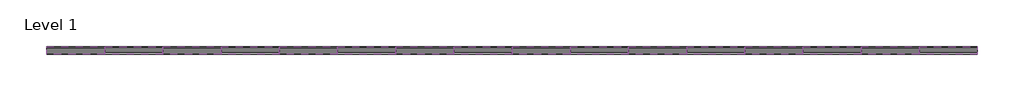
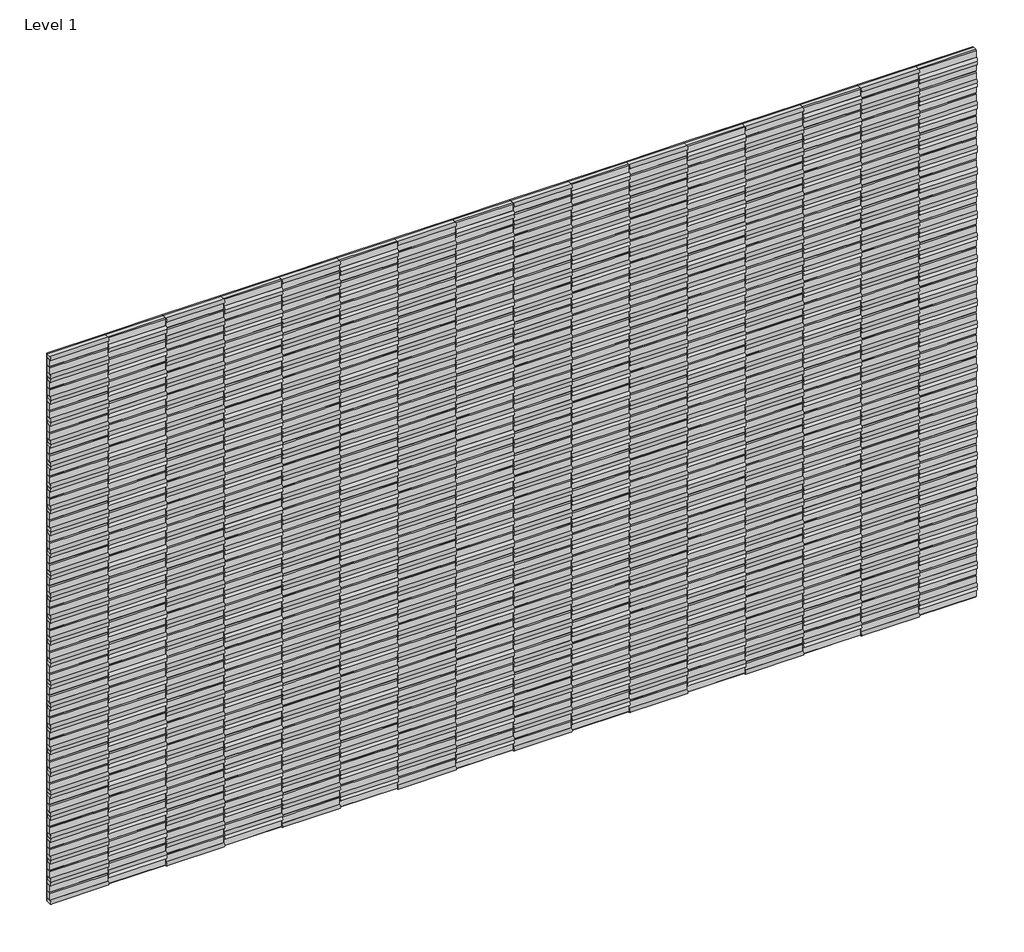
# One storey: 80 proxies.
"""IFC4 building model written with IfcOpenShell, lengths in millimetres."""

from ifc_helpers import new_model, si_unit, origin, place, context, project, spatial, transform, mapped, element, save
from components import tile_a_04621a4c, tile_b_29a99269

model = new_model("IFC4")

# Units and contexts
model_context = context("Model", 3, world=origin())
ifc_project = project(units=[si_unit("LENGTHUNIT", "METRE", prefix="MILLI")], contexts=[model_context])

# Site, building, storey
site = spatial("IfcSite", under=ifc_project)
building = spatial("IfcBuilding", under=site)
storey = spatial("IfcBuildingStorey", under=building, Name="Level 1", Elevation=0.0)

# Proxies
placement = place(None, origin())
tile_a_shape = tile_a_04621a4c(model_context)
element("IfcBuildingElementProxy", 1, Name="Spinneybeck_Søuld Fragments Manufacturing Drawing : Tile A", ObjectType="Spinneybeck_Søuld Fragments Manufacturing Drawing : Tile A", at=placement, inside=storey, context=model_context, shape_type="MappedRepresentation", body=[
    mapped(tile_a_shape, transform((-14894.2408519, -663.006777, 269.875), x_axis=(0.0, 0.0, 1.0), y_axis=(-1.0, 0.0, 0.0), z_axis=(0.0, -1.0, 0.0))),
])
element("IfcBuildingElementProxy", 2, Name="Spinneybeck_Søuld Fragments Manufacturing Drawing : Tile A", ObjectType="Spinneybeck_Søuld Fragments Manufacturing Drawing : Tile A", at=placement, inside=storey, context=model_context, shape_type="MappedRepresentation", body=[
    mapped(tile_a_shape, transform((-14894.2408519, -663.006777, 809.625), x_axis=(0.0, 0.0, 1.0), y_axis=(-1.0, 0.0, 0.0), z_axis=(0.0, -1.0, 0.0))),
])
element("IfcBuildingElementProxy", 3, Name="Spinneybeck_Søuld Fragments Manufacturing Drawing : Tile A", ObjectType="Spinneybeck_Søuld Fragments Manufacturing Drawing : Tile A", at=placement, inside=storey, context=model_context, shape_type="MappedRepresentation", body=[
    mapped(tile_a_shape, transform((-14894.2408519, -663.006777, 1349.375), x_axis=(0.0, 0.0, 1.0), y_axis=(-1.0, 0.0, 0.0), z_axis=(0.0, -1.0, 0.0))),
])
element("IfcBuildingElementProxy", 4, Name="Spinneybeck_Søuld Fragments Manufacturing Drawing : Tile A", ObjectType="Spinneybeck_Søuld Fragments Manufacturing Drawing : Tile A", at=placement, inside=storey, context=model_context, shape_type="MappedRepresentation", body=[
    mapped(tile_a_shape, transform((-14894.2408519, -663.006777, 1889.125), x_axis=(0.0, 0.0, 1.0), y_axis=(-1.0, 0.0, 0.0), z_axis=(0.0, -1.0, 0.0))),
])
element("IfcBuildingElementProxy", 5, Name="Spinneybeck_Søuld Fragments Manufacturing Drawing : Tile A", ObjectType="Spinneybeck_Søuld Fragments Manufacturing Drawing : Tile A", at=placement, inside=storey, context=model_context, shape_type="MappedRepresentation", body=[
    mapped(tile_a_shape, transform((-14894.2408519, -663.006777, 2428.875), x_axis=(0.0, 0.0, 1.0), y_axis=(-1.0, 0.0, 0.0), z_axis=(0.0, -1.0, 0.0))),
])
element("IfcBuildingElementProxy", 6, Name="Spinneybeck_Søuld Fragments Manufacturing Drawing : Tile A", ObjectType="Spinneybeck_Søuld Fragments Manufacturing Drawing : Tile A", at=placement, inside=storey, context=model_context, shape_type="MappedRepresentation", body=[
    mapped(tile_a_shape, transform((-14354.4908519, -663.006777, 269.875), x_axis=(0.0, 0.0, 1.0), y_axis=(-1.0, 0.0, 0.0), z_axis=(0.0, -1.0, 0.0))),
])
element("IfcBuildingElementProxy", 7, Name="Spinneybeck_Søuld Fragments Manufacturing Drawing : Tile A", ObjectType="Spinneybeck_Søuld Fragments Manufacturing Drawing : Tile A", at=placement, inside=storey, context=model_context, shape_type="MappedRepresentation", body=[
    mapped(tile_a_shape, transform((-14354.4908519, -663.006777, 809.625), x_axis=(0.0, 0.0, 1.0), y_axis=(-1.0, 0.0, 0.0), z_axis=(0.0, -1.0, 0.0))),
])
element("IfcBuildingElementProxy", 8, Name="Spinneybeck_Søuld Fragments Manufacturing Drawing : Tile A", ObjectType="Spinneybeck_Søuld Fragments Manufacturing Drawing : Tile A", at=placement, inside=storey, context=model_context, shape_type="MappedRepresentation", body=[
    mapped(tile_a_shape, transform((-14354.4908519, -663.006777, 1349.375), x_axis=(0.0, 0.0, 1.0), y_axis=(-1.0, 0.0, 0.0), z_axis=(0.0, -1.0, 0.0))),
])
element("IfcBuildingElementProxy", 9, Name="Spinneybeck_Søuld Fragments Manufacturing Drawing : Tile A", ObjectType="Spinneybeck_Søuld Fragments Manufacturing Drawing : Tile A", at=placement, inside=storey, context=model_context, shape_type="MappedRepresentation", body=[
    mapped(tile_a_shape, transform((-14354.4908519, -663.006777, 1889.125), x_axis=(0.0, 0.0, 1.0), y_axis=(-1.0, 0.0, 0.0), z_axis=(0.0, -1.0, 0.0))),
])
element("IfcBuildingElementProxy", 10, Name="Spinneybeck_Søuld Fragments Manufacturing Drawing : Tile A", ObjectType="Spinneybeck_Søuld Fragments Manufacturing Drawing : Tile A", at=placement, inside=storey, context=model_context, shape_type="MappedRepresentation", body=[
    mapped(tile_a_shape, transform((-14354.4908519, -663.006777, 2428.875), x_axis=(0.0, 0.0, 1.0), y_axis=(-1.0, 0.0, 0.0), z_axis=(0.0, -1.0, 0.0))),
])
element("IfcBuildingElementProxy", 11, Name="Spinneybeck_Søuld Fragments Manufacturing Drawing : Tile A", ObjectType="Spinneybeck_Søuld Fragments Manufacturing Drawing : Tile A", at=placement, inside=storey, context=model_context, shape_type="MappedRepresentation", body=[
    mapped(tile_a_shape, transform((-13814.7408519, -663.006777, 269.875), x_axis=(0.0, 0.0, 1.0), y_axis=(-1.0, 0.0, 0.0), z_axis=(0.0, -1.0, 0.0))),
])
element("IfcBuildingElementProxy", 12, Name="Spinneybeck_Søuld Fragments Manufacturing Drawing : Tile A", ObjectType="Spinneybeck_Søuld Fragments Manufacturing Drawing : Tile A", at=placement, inside=storey, context=model_context, shape_type="MappedRepresentation", body=[
    mapped(tile_a_shape, transform((-13814.7408519, -663.006777, 809.625), x_axis=(0.0, 0.0, 1.0), y_axis=(-1.0, 0.0, 0.0), z_axis=(0.0, -1.0, 0.0))),
])
element("IfcBuildingElementProxy", 13, Name="Spinneybeck_Søuld Fragments Manufacturing Drawing : Tile A", ObjectType="Spinneybeck_Søuld Fragments Manufacturing Drawing : Tile A", at=placement, inside=storey, context=model_context, shape_type="MappedRepresentation", body=[
    mapped(tile_a_shape, transform((-13814.7408519, -663.006777, 1349.375), x_axis=(0.0, 0.0, 1.0), y_axis=(-1.0, 0.0, 0.0), z_axis=(0.0, -1.0, 0.0))),
])
element("IfcBuildingElementProxy", 14, Name="Spinneybeck_Søuld Fragments Manufacturing Drawing : Tile A", ObjectType="Spinneybeck_Søuld Fragments Manufacturing Drawing : Tile A", at=placement, inside=storey, context=model_context, shape_type="MappedRepresentation", body=[
    mapped(tile_a_shape, transform((-13814.7408519, -663.006777, 1889.125), x_axis=(0.0, 0.0, 1.0), y_axis=(-1.0, 0.0, 0.0), z_axis=(0.0, -1.0, 0.0))),
])
element("IfcBuildingElementProxy", 15, Name="Spinneybeck_Søuld Fragments Manufacturing Drawing : Tile A", ObjectType="Spinneybeck_Søuld Fragments Manufacturing Drawing : Tile A", at=placement, inside=storey, context=model_context, shape_type="MappedRepresentation", body=[
    mapped(tile_a_shape, transform((-13814.7408519, -663.006777, 2428.875), x_axis=(0.0, 0.0, 1.0), y_axis=(-1.0, 0.0, 0.0), z_axis=(0.0, -1.0, 0.0))),
])
element("IfcBuildingElementProxy", 16, Name="Spinneybeck_Søuld Fragments Manufacturing Drawing : Tile A", ObjectType="Spinneybeck_Søuld Fragments Manufacturing Drawing : Tile A", at=placement, inside=storey, context=model_context, shape_type="MappedRepresentation", body=[
    mapped(tile_a_shape, transform((-13274.9908519, -663.006777, 269.875), x_axis=(0.0, 0.0, 1.0), y_axis=(-1.0, 0.0, 0.0), z_axis=(0.0, -1.0, 0.0))),
])
element("IfcBuildingElementProxy", 17, Name="Spinneybeck_Søuld Fragments Manufacturing Drawing : Tile A", ObjectType="Spinneybeck_Søuld Fragments Manufacturing Drawing : Tile A", at=placement, inside=storey, context=model_context, shape_type="MappedRepresentation", body=[
    mapped(tile_a_shape, transform((-13274.9908519, -663.006777, 809.625), x_axis=(0.0, 0.0, 1.0), y_axis=(-1.0, 0.0, 0.0), z_axis=(0.0, -1.0, 0.0))),
])
element("IfcBuildingElementProxy", 18, Name="Spinneybeck_Søuld Fragments Manufacturing Drawing : Tile A", ObjectType="Spinneybeck_Søuld Fragments Manufacturing Drawing : Tile A", at=placement, inside=storey, context=model_context, shape_type="MappedRepresentation", body=[
    mapped(tile_a_shape, transform((-13274.9908519, -663.006777, 1349.375), x_axis=(0.0, 0.0, 1.0), y_axis=(-1.0, 0.0, 0.0), z_axis=(0.0, -1.0, 0.0))),
])
element("IfcBuildingElementProxy", 19, Name="Spinneybeck_Søuld Fragments Manufacturing Drawing : Tile A", ObjectType="Spinneybeck_Søuld Fragments Manufacturing Drawing : Tile A", at=placement, inside=storey, context=model_context, shape_type="MappedRepresentation", body=[
    mapped(tile_a_shape, transform((-13274.9908519, -663.006777, 1889.125), x_axis=(0.0, 0.0, 1.0), y_axis=(-1.0, 0.0, 0.0), z_axis=(0.0, -1.0, 0.0))),
])
element("IfcBuildingElementProxy", 20, Name="Spinneybeck_Søuld Fragments Manufacturing Drawing : Tile A", ObjectType="Spinneybeck_Søuld Fragments Manufacturing Drawing : Tile A", at=placement, inside=storey, context=model_context, shape_type="MappedRepresentation", body=[
    mapped(tile_a_shape, transform((-13274.9908519, -663.006777, 2428.875), x_axis=(0.0, 0.0, 1.0), y_axis=(-1.0, 0.0, 0.0), z_axis=(0.0, -1.0, 0.0))),
])
element("IfcBuildingElementProxy", 21, Name="Spinneybeck_Søuld Fragments Manufacturing Drawing : Tile A", ObjectType="Spinneybeck_Søuld Fragments Manufacturing Drawing : Tile A", at=placement, inside=storey, context=model_context, shape_type="MappedRepresentation", body=[
    mapped(tile_a_shape, transform((-12735.2408519, -663.006777, 269.875), x_axis=(0.0, 0.0, 1.0), y_axis=(-1.0, 0.0, 0.0), z_axis=(0.0, -1.0, 0.0))),
])
element("IfcBuildingElementProxy", 22, Name="Spinneybeck_Søuld Fragments Manufacturing Drawing : Tile A", ObjectType="Spinneybeck_Søuld Fragments Manufacturing Drawing : Tile A", at=placement, inside=storey, context=model_context, shape_type="MappedRepresentation", body=[
    mapped(tile_a_shape, transform((-12735.2408519, -663.006777, 809.625), x_axis=(0.0, 0.0, 1.0), y_axis=(-1.0, 0.0, 0.0), z_axis=(0.0, -1.0, 0.0))),
])
element("IfcBuildingElementProxy", 23, Name="Spinneybeck_Søuld Fragments Manufacturing Drawing : Tile A", ObjectType="Spinneybeck_Søuld Fragments Manufacturing Drawing : Tile A", at=placement, inside=storey, context=model_context, shape_type="MappedRepresentation", body=[
    mapped(tile_a_shape, transform((-12735.2408519, -663.006777, 1349.375), x_axis=(0.0, 0.0, 1.0), y_axis=(-1.0, 0.0, 0.0), z_axis=(0.0, -1.0, 0.0))),
])
element("IfcBuildingElementProxy", 24, Name="Spinneybeck_Søuld Fragments Manufacturing Drawing : Tile A", ObjectType="Spinneybeck_Søuld Fragments Manufacturing Drawing : Tile A", at=placement, inside=storey, context=model_context, shape_type="MappedRepresentation", body=[
    mapped(tile_a_shape, transform((-12735.2408519, -663.006777, 1889.125), x_axis=(0.0, 0.0, 1.0), y_axis=(-1.0, 0.0, 0.0), z_axis=(0.0, -1.0, 0.0))),
])
element("IfcBuildingElementProxy", 25, Name="Spinneybeck_Søuld Fragments Manufacturing Drawing : Tile A", ObjectType="Spinneybeck_Søuld Fragments Manufacturing Drawing : Tile A", at=placement, inside=storey, context=model_context, shape_type="MappedRepresentation", body=[
    mapped(tile_a_shape, transform((-12735.2408519, -663.006777, 2428.875), x_axis=(0.0, 0.0, 1.0), y_axis=(-1.0, 0.0, 0.0), z_axis=(0.0, -1.0, 0.0))),
])
element("IfcBuildingElementProxy", 26, Name="Spinneybeck_Søuld Fragments Manufacturing Drawing : Tile A", ObjectType="Spinneybeck_Søuld Fragments Manufacturing Drawing : Tile A", at=placement, inside=storey, context=model_context, shape_type="MappedRepresentation", body=[
    mapped(tile_a_shape, transform((-12195.4908519, -663.006777, 269.875), x_axis=(0.0, 0.0, 1.0), y_axis=(-1.0, 0.0, 0.0), z_axis=(0.0, -1.0, 0.0))),
])
element("IfcBuildingElementProxy", 27, Name="Spinneybeck_Søuld Fragments Manufacturing Drawing : Tile A", ObjectType="Spinneybeck_Søuld Fragments Manufacturing Drawing : Tile A", at=placement, inside=storey, context=model_context, shape_type="MappedRepresentation", body=[
    mapped(tile_a_shape, transform((-12195.4908519, -663.006777, 809.625), x_axis=(0.0, 0.0, 1.0), y_axis=(-1.0, 0.0, 0.0), z_axis=(0.0, -1.0, 0.0))),
])
element("IfcBuildingElementProxy", 28, Name="Spinneybeck_Søuld Fragments Manufacturing Drawing : Tile A", ObjectType="Spinneybeck_Søuld Fragments Manufacturing Drawing : Tile A", at=placement, inside=storey, context=model_context, shape_type="MappedRepresentation", body=[
    mapped(tile_a_shape, transform((-12195.4908519, -663.006777, 1349.375), x_axis=(0.0, 0.0, 1.0), y_axis=(-1.0, 0.0, 0.0), z_axis=(0.0, -1.0, 0.0))),
])
element("IfcBuildingElementProxy", 29, Name="Spinneybeck_Søuld Fragments Manufacturing Drawing : Tile A", ObjectType="Spinneybeck_Søuld Fragments Manufacturing Drawing : Tile A", at=placement, inside=storey, context=model_context, shape_type="MappedRepresentation", body=[
    mapped(tile_a_shape, transform((-12195.4908519, -663.006777, 1889.125), x_axis=(0.0, 0.0, 1.0), y_axis=(-1.0, 0.0, 0.0), z_axis=(0.0, -1.0, 0.0))),
])
element("IfcBuildingElementProxy", 30, Name="Spinneybeck_Søuld Fragments Manufacturing Drawing : Tile A", ObjectType="Spinneybeck_Søuld Fragments Manufacturing Drawing : Tile A", at=placement, inside=storey, context=model_context, shape_type="MappedRepresentation", body=[
    mapped(tile_a_shape, transform((-12195.4908519, -663.006777, 2428.875), x_axis=(0.0, 0.0, 1.0), y_axis=(-1.0, 0.0, 0.0), z_axis=(0.0, -1.0, 0.0))),
])
element("IfcBuildingElementProxy", 31, Name="Spinneybeck_Søuld Fragments Manufacturing Drawing : Tile A", ObjectType="Spinneybeck_Søuld Fragments Manufacturing Drawing : Tile A", at=placement, inside=storey, context=model_context, shape_type="MappedRepresentation", body=[
    mapped(tile_a_shape, transform((-11655.7408519, -663.006777, 269.875), x_axis=(0.0, 0.0, 1.0), y_axis=(-1.0, 0.0, 0.0), z_axis=(0.0, -1.0, 0.0))),
])
element("IfcBuildingElementProxy", 32, Name="Spinneybeck_Søuld Fragments Manufacturing Drawing : Tile A", ObjectType="Spinneybeck_Søuld Fragments Manufacturing Drawing : Tile A", at=placement, inside=storey, context=model_context, shape_type="MappedRepresentation", body=[
    mapped(tile_a_shape, transform((-11655.7408519, -663.006777, 809.625), x_axis=(0.0, 0.0, 1.0), y_axis=(-1.0, 0.0, 0.0), z_axis=(0.0, -1.0, 0.0))),
])
element("IfcBuildingElementProxy", 33, Name="Spinneybeck_Søuld Fragments Manufacturing Drawing : Tile A", ObjectType="Spinneybeck_Søuld Fragments Manufacturing Drawing : Tile A", at=placement, inside=storey, context=model_context, shape_type="MappedRepresentation", body=[
    mapped(tile_a_shape, transform((-11655.7408519, -663.006777, 1349.375), x_axis=(0.0, 0.0, 1.0), y_axis=(-1.0, 0.0, 0.0), z_axis=(0.0, -1.0, 0.0))),
])
element("IfcBuildingElementProxy", 34, Name="Spinneybeck_Søuld Fragments Manufacturing Drawing : Tile A", ObjectType="Spinneybeck_Søuld Fragments Manufacturing Drawing : Tile A", at=placement, inside=storey, context=model_context, shape_type="MappedRepresentation", body=[
    mapped(tile_a_shape, transform((-11655.7408519, -663.006777, 1889.125), x_axis=(0.0, 0.0, 1.0), y_axis=(-1.0, 0.0, 0.0), z_axis=(0.0, -1.0, 0.0))),
])
element("IfcBuildingElementProxy", 35, Name="Spinneybeck_Søuld Fragments Manufacturing Drawing : Tile A", ObjectType="Spinneybeck_Søuld Fragments Manufacturing Drawing : Tile A", at=placement, inside=storey, context=model_context, shape_type="MappedRepresentation", body=[
    mapped(tile_a_shape, transform((-11655.7408519, -663.006777, 2428.875), x_axis=(0.0, 0.0, 1.0), y_axis=(-1.0, 0.0, 0.0), z_axis=(0.0, -1.0, 0.0))),
])
element("IfcBuildingElementProxy", 36, Name="Spinneybeck_Søuld Fragments Manufacturing Drawing : Tile A", ObjectType="Spinneybeck_Søuld Fragments Manufacturing Drawing : Tile A", at=placement, inside=storey, context=model_context, shape_type="MappedRepresentation", body=[
    mapped(tile_a_shape, transform((-11115.9908519, -663.006777, 269.875), x_axis=(0.0, 0.0, 1.0), y_axis=(-1.0, 0.0, 0.0), z_axis=(0.0, -1.0, 0.0))),
])
element("IfcBuildingElementProxy", 37, Name="Spinneybeck_Søuld Fragments Manufacturing Drawing : Tile A", ObjectType="Spinneybeck_Søuld Fragments Manufacturing Drawing : Tile A", at=placement, inside=storey, context=model_context, shape_type="MappedRepresentation", body=[
    mapped(tile_a_shape, transform((-11115.9908519, -663.006777, 809.625), x_axis=(0.0, 0.0, 1.0), y_axis=(-1.0, 0.0, 0.0), z_axis=(0.0, -1.0, 0.0))),
])
element("IfcBuildingElementProxy", 38, Name="Spinneybeck_Søuld Fragments Manufacturing Drawing : Tile A", ObjectType="Spinneybeck_Søuld Fragments Manufacturing Drawing : Tile A", at=placement, inside=storey, context=model_context, shape_type="MappedRepresentation", body=[
    mapped(tile_a_shape, transform((-11115.9908519, -663.006777, 1349.375), x_axis=(0.0, 0.0, 1.0), y_axis=(-1.0, 0.0, 0.0), z_axis=(0.0, -1.0, 0.0))),
])
element("IfcBuildingElementProxy", 39, Name="Spinneybeck_Søuld Fragments Manufacturing Drawing : Tile A", ObjectType="Spinneybeck_Søuld Fragments Manufacturing Drawing : Tile A", at=placement, inside=storey, context=model_context, shape_type="MappedRepresentation", body=[
    mapped(tile_a_shape, transform((-11115.9908519, -663.006777, 1889.125), x_axis=(0.0, 0.0, 1.0), y_axis=(-1.0, 0.0, 0.0), z_axis=(0.0, -1.0, 0.0))),
])
element("IfcBuildingElementProxy", 40, Name="Spinneybeck_Søuld Fragments Manufacturing Drawing : Tile A", ObjectType="Spinneybeck_Søuld Fragments Manufacturing Drawing : Tile A", at=placement, inside=storey, context=model_context, shape_type="MappedRepresentation", body=[
    mapped(tile_a_shape, transform((-11115.9908519, -663.006777, 2428.875), x_axis=(0.0, 0.0, 1.0), y_axis=(-1.0, 0.0, 0.0), z_axis=(0.0, -1.0, 0.0))),
])
tile_b_shape = tile_b_29a99269(model_context)
element("IfcBuildingElementProxy", 41, Name="Spinneybeck_Søuld Fragments Manufacturing Drawing : Tile B", ObjectType="Spinneybeck_Søuld Fragments Manufacturing Drawing : Tile B", at=placement, inside=storey, context=model_context, shape_type="MappedRepresentation", body=[
    mapped(tile_b_shape, transform((-14624.3658519, -663.006777, 269.875), x_axis=(0.0, 0.0, 1.0), y_axis=(-1.0, 0.0, 0.0), z_axis=(0.0, -1.0, 0.0))),
])
element("IfcBuildingElementProxy", 42, Name="Spinneybeck_Søuld Fragments Manufacturing Drawing : Tile B", ObjectType="Spinneybeck_Søuld Fragments Manufacturing Drawing : Tile B", at=placement, inside=storey, context=model_context, shape_type="MappedRepresentation", body=[
    mapped(tile_b_shape, transform((-14624.3658519, -663.006777, 809.625), x_axis=(0.0, 0.0, 1.0), y_axis=(-1.0, 0.0, 0.0), z_axis=(0.0, -1.0, 0.0))),
])
element("IfcBuildingElementProxy", 43, Name="Spinneybeck_Søuld Fragments Manufacturing Drawing : Tile B", ObjectType="Spinneybeck_Søuld Fragments Manufacturing Drawing : Tile B", at=placement, inside=storey, context=model_context, shape_type="MappedRepresentation", body=[
    mapped(tile_b_shape, transform((-14624.3658519, -663.006777, 1349.375), x_axis=(0.0, 0.0, 1.0), y_axis=(-1.0, 0.0, 0.0), z_axis=(0.0, -1.0, 0.0))),
])
element("IfcBuildingElementProxy", 44, Name="Spinneybeck_Søuld Fragments Manufacturing Drawing : Tile B", ObjectType="Spinneybeck_Søuld Fragments Manufacturing Drawing : Tile B", at=placement, inside=storey, context=model_context, shape_type="MappedRepresentation", body=[
    mapped(tile_b_shape, transform((-14624.3658519, -663.006777, 1889.125), x_axis=(0.0, 0.0, 1.0), y_axis=(-1.0, 0.0, 0.0), z_axis=(0.0, -1.0, 0.0))),
])
element("IfcBuildingElementProxy", 45, Name="Spinneybeck_Søuld Fragments Manufacturing Drawing : Tile B", ObjectType="Spinneybeck_Søuld Fragments Manufacturing Drawing : Tile B", at=placement, inside=storey, context=model_context, shape_type="MappedRepresentation", body=[
    mapped(tile_b_shape, transform((-14624.3658519, -663.006777, 2428.875), x_axis=(0.0, 0.0, 1.0), y_axis=(-1.0, 0.0, 0.0), z_axis=(0.0, -1.0, 0.0))),
])
element("IfcBuildingElementProxy", 46, Name="Spinneybeck_Søuld Fragments Manufacturing Drawing : Tile B", ObjectType="Spinneybeck_Søuld Fragments Manufacturing Drawing : Tile B", at=placement, inside=storey, context=model_context, shape_type="MappedRepresentation", body=[
    mapped(tile_b_shape, transform((-14084.6158519, -663.006777, 269.875), x_axis=(0.0, 0.0, 1.0), y_axis=(-1.0, 0.0, 0.0), z_axis=(0.0, -1.0, 0.0))),
])
element("IfcBuildingElementProxy", 47, Name="Spinneybeck_Søuld Fragments Manufacturing Drawing : Tile B", ObjectType="Spinneybeck_Søuld Fragments Manufacturing Drawing : Tile B", at=placement, inside=storey, context=model_context, shape_type="MappedRepresentation", body=[
    mapped(tile_b_shape, transform((-14084.6158519, -663.006777, 809.625), x_axis=(0.0, 0.0, 1.0), y_axis=(-1.0, 0.0, 0.0), z_axis=(0.0, -1.0, 0.0))),
])
element("IfcBuildingElementProxy", 48, Name="Spinneybeck_Søuld Fragments Manufacturing Drawing : Tile B", ObjectType="Spinneybeck_Søuld Fragments Manufacturing Drawing : Tile B", at=placement, inside=storey, context=model_context, shape_type="MappedRepresentation", body=[
    mapped(tile_b_shape, transform((-14084.6158519, -663.006777, 1349.375), x_axis=(0.0, 0.0, 1.0), y_axis=(-1.0, 0.0, 0.0), z_axis=(0.0, -1.0, 0.0))),
])
element("IfcBuildingElementProxy", 49, Name="Spinneybeck_Søuld Fragments Manufacturing Drawing : Tile B", ObjectType="Spinneybeck_Søuld Fragments Manufacturing Drawing : Tile B", at=placement, inside=storey, context=model_context, shape_type="MappedRepresentation", body=[
    mapped(tile_b_shape, transform((-14084.6158519, -663.006777, 1889.125), x_axis=(0.0, 0.0, 1.0), y_axis=(-1.0, 0.0, 0.0), z_axis=(0.0, -1.0, 0.0))),
])
element("IfcBuildingElementProxy", 50, Name="Spinneybeck_Søuld Fragments Manufacturing Drawing : Tile B", ObjectType="Spinneybeck_Søuld Fragments Manufacturing Drawing : Tile B", at=placement, inside=storey, context=model_context, shape_type="MappedRepresentation", body=[
    mapped(tile_b_shape, transform((-14084.6158519, -663.006777, 2428.875), x_axis=(0.0, 0.0, 1.0), y_axis=(-1.0, 0.0, 0.0), z_axis=(0.0, -1.0, 0.0))),
])
element("IfcBuildingElementProxy", 51, Name="Spinneybeck_Søuld Fragments Manufacturing Drawing : Tile B", ObjectType="Spinneybeck_Søuld Fragments Manufacturing Drawing : Tile B", at=placement, inside=storey, context=model_context, shape_type="MappedRepresentation", body=[
    mapped(tile_b_shape, transform((-13544.8658519, -663.006777, 269.875), x_axis=(0.0, 0.0, 1.0), y_axis=(-1.0, 0.0, 0.0), z_axis=(0.0, -1.0, 0.0))),
])
element("IfcBuildingElementProxy", 52, Name="Spinneybeck_Søuld Fragments Manufacturing Drawing : Tile B", ObjectType="Spinneybeck_Søuld Fragments Manufacturing Drawing : Tile B", at=placement, inside=storey, context=model_context, shape_type="MappedRepresentation", body=[
    mapped(tile_b_shape, transform((-13544.8658519, -663.006777, 809.625), x_axis=(0.0, 0.0, 1.0), y_axis=(-1.0, 0.0, 0.0), z_axis=(0.0, -1.0, 0.0))),
])
element("IfcBuildingElementProxy", 53, Name="Spinneybeck_Søuld Fragments Manufacturing Drawing : Tile B", ObjectType="Spinneybeck_Søuld Fragments Manufacturing Drawing : Tile B", at=placement, inside=storey, context=model_context, shape_type="MappedRepresentation", body=[
    mapped(tile_b_shape, transform((-13544.8658519, -663.006777, 1349.375), x_axis=(0.0, 0.0, 1.0), y_axis=(-1.0, 0.0, 0.0), z_axis=(0.0, -1.0, 0.0))),
])
element("IfcBuildingElementProxy", 54, Name="Spinneybeck_Søuld Fragments Manufacturing Drawing : Tile B", ObjectType="Spinneybeck_Søuld Fragments Manufacturing Drawing : Tile B", at=placement, inside=storey, context=model_context, shape_type="MappedRepresentation", body=[
    mapped(tile_b_shape, transform((-13544.8658519, -663.006777, 1889.125), x_axis=(0.0, 0.0, 1.0), y_axis=(-1.0, 0.0, 0.0), z_axis=(0.0, -1.0, 0.0))),
])
element("IfcBuildingElementProxy", 55, Name="Spinneybeck_Søuld Fragments Manufacturing Drawing : Tile B", ObjectType="Spinneybeck_Søuld Fragments Manufacturing Drawing : Tile B", at=placement, inside=storey, context=model_context, shape_type="MappedRepresentation", body=[
    mapped(tile_b_shape, transform((-13544.8658519, -663.006777, 2428.875), x_axis=(0.0, 0.0, 1.0), y_axis=(-1.0, 0.0, 0.0), z_axis=(0.0, -1.0, 0.0))),
])
element("IfcBuildingElementProxy", 56, Name="Spinneybeck_Søuld Fragments Manufacturing Drawing : Tile B", ObjectType="Spinneybeck_Søuld Fragments Manufacturing Drawing : Tile B", at=placement, inside=storey, context=model_context, shape_type="MappedRepresentation", body=[
    mapped(tile_b_shape, transform((-13005.1158519, -663.006777, 269.875), x_axis=(0.0, 0.0, 1.0), y_axis=(-1.0, 0.0, 0.0), z_axis=(0.0, -1.0, 0.0))),
])
element("IfcBuildingElementProxy", 57, Name="Spinneybeck_Søuld Fragments Manufacturing Drawing : Tile B", ObjectType="Spinneybeck_Søuld Fragments Manufacturing Drawing : Tile B", at=placement, inside=storey, context=model_context, shape_type="MappedRepresentation", body=[
    mapped(tile_b_shape, transform((-13005.1158519, -663.006777, 809.625), x_axis=(0.0, 0.0, 1.0), y_axis=(-1.0, 0.0, 0.0), z_axis=(0.0, -1.0, 0.0))),
])
element("IfcBuildingElementProxy", 58, Name="Spinneybeck_Søuld Fragments Manufacturing Drawing : Tile B", ObjectType="Spinneybeck_Søuld Fragments Manufacturing Drawing : Tile B", at=placement, inside=storey, context=model_context, shape_type="MappedRepresentation", body=[
    mapped(tile_b_shape, transform((-13005.1158519, -663.006777, 1349.375), x_axis=(0.0, 0.0, 1.0), y_axis=(-1.0, 0.0, 0.0), z_axis=(0.0, -1.0, 0.0))),
])
element("IfcBuildingElementProxy", 59, Name="Spinneybeck_Søuld Fragments Manufacturing Drawing : Tile B", ObjectType="Spinneybeck_Søuld Fragments Manufacturing Drawing : Tile B", at=placement, inside=storey, context=model_context, shape_type="MappedRepresentation", body=[
    mapped(tile_b_shape, transform((-13005.1158519, -663.006777, 1889.125), x_axis=(0.0, 0.0, 1.0), y_axis=(-1.0, 0.0, 0.0), z_axis=(0.0, -1.0, 0.0))),
])
element("IfcBuildingElementProxy", 60, Name="Spinneybeck_Søuld Fragments Manufacturing Drawing : Tile B", ObjectType="Spinneybeck_Søuld Fragments Manufacturing Drawing : Tile B", at=placement, inside=storey, context=model_context, shape_type="MappedRepresentation", body=[
    mapped(tile_b_shape, transform((-13005.1158519, -663.006777, 2428.875), x_axis=(0.0, 0.0, 1.0), y_axis=(-1.0, 0.0, 0.0), z_axis=(0.0, -1.0, 0.0))),
])
element("IfcBuildingElementProxy", 61, Name="Spinneybeck_Søuld Fragments Manufacturing Drawing : Tile B", ObjectType="Spinneybeck_Søuld Fragments Manufacturing Drawing : Tile B", at=placement, inside=storey, context=model_context, shape_type="MappedRepresentation", body=[
    mapped(tile_b_shape, transform((-12465.3658519, -663.006777, 269.875), x_axis=(0.0, 0.0, 1.0), y_axis=(-1.0, 0.0, 0.0), z_axis=(0.0, -1.0, 0.0))),
])
element("IfcBuildingElementProxy", 62, Name="Spinneybeck_Søuld Fragments Manufacturing Drawing : Tile B", ObjectType="Spinneybeck_Søuld Fragments Manufacturing Drawing : Tile B", at=placement, inside=storey, context=model_context, shape_type="MappedRepresentation", body=[
    mapped(tile_b_shape, transform((-12465.3658519, -663.006777, 809.625), x_axis=(0.0, 0.0, 1.0), y_axis=(-1.0, 0.0, 0.0), z_axis=(0.0, -1.0, 0.0))),
])
element("IfcBuildingElementProxy", 63, Name="Spinneybeck_Søuld Fragments Manufacturing Drawing : Tile B", ObjectType="Spinneybeck_Søuld Fragments Manufacturing Drawing : Tile B", at=placement, inside=storey, context=model_context, shape_type="MappedRepresentation", body=[
    mapped(tile_b_shape, transform((-12465.3658519, -663.006777, 1349.375), x_axis=(0.0, 0.0, 1.0), y_axis=(-1.0, 0.0, 0.0), z_axis=(0.0, -1.0, 0.0))),
])
element("IfcBuildingElementProxy", 64, Name="Spinneybeck_Søuld Fragments Manufacturing Drawing : Tile B", ObjectType="Spinneybeck_Søuld Fragments Manufacturing Drawing : Tile B", at=placement, inside=storey, context=model_context, shape_type="MappedRepresentation", body=[
    mapped(tile_b_shape, transform((-12465.3658519, -663.006777, 1889.125), x_axis=(0.0, 0.0, 1.0), y_axis=(-1.0, 0.0, 0.0), z_axis=(0.0, -1.0, 0.0))),
])
element("IfcBuildingElementProxy", 65, Name="Spinneybeck_Søuld Fragments Manufacturing Drawing : Tile B", ObjectType="Spinneybeck_Søuld Fragments Manufacturing Drawing : Tile B", at=placement, inside=storey, context=model_context, shape_type="MappedRepresentation", body=[
    mapped(tile_b_shape, transform((-12465.3658519, -663.006777, 2428.875), x_axis=(0.0, 0.0, 1.0), y_axis=(-1.0, 0.0, 0.0), z_axis=(0.0, -1.0, 0.0))),
])
element("IfcBuildingElementProxy", 66, Name="Spinneybeck_Søuld Fragments Manufacturing Drawing : Tile B", ObjectType="Spinneybeck_Søuld Fragments Manufacturing Drawing : Tile B", at=placement, inside=storey, context=model_context, shape_type="MappedRepresentation", body=[
    mapped(tile_b_shape, transform((-11925.6158519, -663.006777, 269.875), x_axis=(0.0, 0.0, 1.0), y_axis=(-1.0, 0.0, 0.0), z_axis=(0.0, -1.0, 0.0))),
])
element("IfcBuildingElementProxy", 67, Name="Spinneybeck_Søuld Fragments Manufacturing Drawing : Tile B", ObjectType="Spinneybeck_Søuld Fragments Manufacturing Drawing : Tile B", at=placement, inside=storey, context=model_context, shape_type="MappedRepresentation", body=[
    mapped(tile_b_shape, transform((-11925.6158519, -663.006777, 809.625), x_axis=(0.0, 0.0, 1.0), y_axis=(-1.0, 0.0, 0.0), z_axis=(0.0, -1.0, 0.0))),
])
element("IfcBuildingElementProxy", 68, Name="Spinneybeck_Søuld Fragments Manufacturing Drawing : Tile B", ObjectType="Spinneybeck_Søuld Fragments Manufacturing Drawing : Tile B", at=placement, inside=storey, context=model_context, shape_type="MappedRepresentation", body=[
    mapped(tile_b_shape, transform((-11925.6158519, -663.006777, 1349.375), x_axis=(0.0, 0.0, 1.0), y_axis=(-1.0, 0.0, 0.0), z_axis=(0.0, -1.0, 0.0))),
])
element("IfcBuildingElementProxy", 69, Name="Spinneybeck_Søuld Fragments Manufacturing Drawing : Tile B", ObjectType="Spinneybeck_Søuld Fragments Manufacturing Drawing : Tile B", at=placement, inside=storey, context=model_context, shape_type="MappedRepresentation", body=[
    mapped(tile_b_shape, transform((-11925.6158519, -663.006777, 1889.125), x_axis=(0.0, 0.0, 1.0), y_axis=(-1.0, 0.0, 0.0), z_axis=(0.0, -1.0, 0.0))),
])
element("IfcBuildingElementProxy", 70, Name="Spinneybeck_Søuld Fragments Manufacturing Drawing : Tile B", ObjectType="Spinneybeck_Søuld Fragments Manufacturing Drawing : Tile B", at=placement, inside=storey, context=model_context, shape_type="MappedRepresentation", body=[
    mapped(tile_b_shape, transform((-11925.6158519, -663.006777, 2428.875), x_axis=(0.0, 0.0, 1.0), y_axis=(-1.0, 0.0, 0.0), z_axis=(0.0, -1.0, 0.0))),
])
element("IfcBuildingElementProxy", 71, Name="Spinneybeck_Søuld Fragments Manufacturing Drawing : Tile B", ObjectType="Spinneybeck_Søuld Fragments Manufacturing Drawing : Tile B", at=placement, inside=storey, context=model_context, shape_type="MappedRepresentation", body=[
    mapped(tile_b_shape, transform((-11385.8658519, -663.006777, 269.875), x_axis=(0.0, 0.0, 1.0), y_axis=(-1.0, 0.0, 0.0), z_axis=(0.0, -1.0, 0.0))),
])
element("IfcBuildingElementProxy", 72, Name="Spinneybeck_Søuld Fragments Manufacturing Drawing : Tile B", ObjectType="Spinneybeck_Søuld Fragments Manufacturing Drawing : Tile B", at=placement, inside=storey, context=model_context, shape_type="MappedRepresentation", body=[
    mapped(tile_b_shape, transform((-11385.8658519, -663.006777, 809.625), x_axis=(0.0, 0.0, 1.0), y_axis=(-1.0, 0.0, 0.0), z_axis=(0.0, -1.0, 0.0))),
])
element("IfcBuildingElementProxy", 73, Name="Spinneybeck_Søuld Fragments Manufacturing Drawing : Tile B", ObjectType="Spinneybeck_Søuld Fragments Manufacturing Drawing : Tile B", at=placement, inside=storey, context=model_context, shape_type="MappedRepresentation", body=[
    mapped(tile_b_shape, transform((-11385.8658519, -663.006777, 1349.375), x_axis=(0.0, 0.0, 1.0), y_axis=(-1.0, 0.0, 0.0), z_axis=(0.0, -1.0, 0.0))),
])
element("IfcBuildingElementProxy", 74, Name="Spinneybeck_Søuld Fragments Manufacturing Drawing : Tile B", ObjectType="Spinneybeck_Søuld Fragments Manufacturing Drawing : Tile B", at=placement, inside=storey, context=model_context, shape_type="MappedRepresentation", body=[
    mapped(tile_b_shape, transform((-11385.8658519, -663.006777, 1889.125), x_axis=(0.0, 0.0, 1.0), y_axis=(-1.0, 0.0, 0.0), z_axis=(0.0, -1.0, 0.0))),
])
element("IfcBuildingElementProxy", 75, Name="Spinneybeck_Søuld Fragments Manufacturing Drawing : Tile B", ObjectType="Spinneybeck_Søuld Fragments Manufacturing Drawing : Tile B", at=placement, inside=storey, context=model_context, shape_type="MappedRepresentation", body=[
    mapped(tile_b_shape, transform((-11385.8658519, -663.006777, 2428.875), x_axis=(0.0, 0.0, 1.0), y_axis=(-1.0, 0.0, 0.0), z_axis=(0.0, -1.0, 0.0))),
])
element("IfcBuildingElementProxy", 76, Name="Spinneybeck_Søuld Fragments Manufacturing Drawing : Tile B", ObjectType="Spinneybeck_Søuld Fragments Manufacturing Drawing : Tile B", at=placement, inside=storey, context=model_context, shape_type="MappedRepresentation", body=[
    mapped(tile_b_shape, transform((-10846.1158519, -663.006777, 269.875), x_axis=(0.0, 0.0, 1.0), y_axis=(-1.0, 0.0, 0.0), z_axis=(0.0, -1.0, 0.0))),
])
element("IfcBuildingElementProxy", 77, Name="Spinneybeck_Søuld Fragments Manufacturing Drawing : Tile B", ObjectType="Spinneybeck_Søuld Fragments Manufacturing Drawing : Tile B", at=placement, inside=storey, context=model_context, shape_type="MappedRepresentation", body=[
    mapped(tile_b_shape, transform((-10846.1158519, -663.006777, 809.625), x_axis=(0.0, 0.0, 1.0), y_axis=(-1.0, 0.0, 0.0), z_axis=(0.0, -1.0, 0.0))),
])
element("IfcBuildingElementProxy", 78, Name="Spinneybeck_Søuld Fragments Manufacturing Drawing : Tile B", ObjectType="Spinneybeck_Søuld Fragments Manufacturing Drawing : Tile B", at=placement, inside=storey, context=model_context, shape_type="MappedRepresentation", body=[
    mapped(tile_b_shape, transform((-10846.1158519, -663.006777, 1349.375), x_axis=(0.0, 0.0, 1.0), y_axis=(-1.0, 0.0, 0.0), z_axis=(0.0, -1.0, 0.0))),
])
element("IfcBuildingElementProxy", 79, Name="Spinneybeck_Søuld Fragments Manufacturing Drawing : Tile B", ObjectType="Spinneybeck_Søuld Fragments Manufacturing Drawing : Tile B", at=placement, inside=storey, context=model_context, shape_type="MappedRepresentation", body=[
    mapped(tile_b_shape, transform((-10846.1158519, -663.006777, 1889.125), x_axis=(0.0, 0.0, 1.0), y_axis=(-1.0, 0.0, 0.0), z_axis=(0.0, -1.0, 0.0))),
])
element("IfcBuildingElementProxy", 80, Name="Spinneybeck_Søuld Fragments Manufacturing Drawing : Tile B", ObjectType="Spinneybeck_Søuld Fragments Manufacturing Drawing : Tile B", at=placement, inside=storey, context=model_context, shape_type="MappedRepresentation", body=[
    mapped(tile_b_shape, transform((-10846.1158519, -663.006777, 2428.875), x_axis=(0.0, 0.0, 1.0), y_axis=(-1.0, 0.0, 0.0), z_axis=(0.0, -1.0, 0.0))),
])

save(model, "model.ifc")
